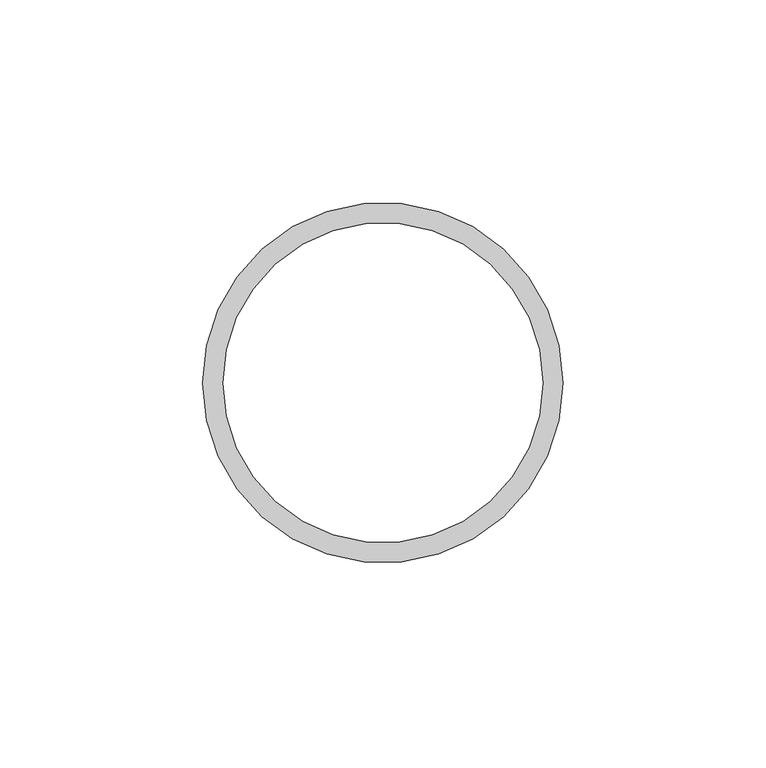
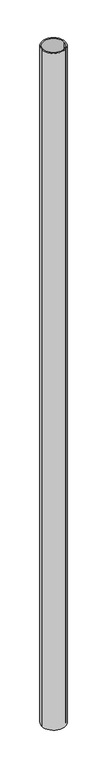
"""IFC4 building model written with IfcOpenShell, lengths in millimetres: column geometry, NLRS_28_SC_TLB_kolom buis_generiek_ISR : ø88.9x5 ."""

from ifc_helpers import new_model, si_unit, point, frame, origin, origin_2d, place, context, project, spatial, circle_curve, trimmed, segment, composite_curve, outline, extrude, source, transform, mapped, element, save


def column_8db69a7e(model_context):
    return source(origin(), model_context, "Body", "SweptSolid", [
        extrude(outline(composite_curve([segment(trimmed(circle_curve(origin_2d(), 44.45), [point((44.45, 0.0))], [point((-44.45, 0.0))], False, "CARTESIAN"), True, "CONTINUOUS"), segment(trimmed(circle_curve(origin_2d(), 44.45), [point((-44.45, 0.0))], [point((44.45, 0.0))], False, "CARTESIAN"), True, "CONTINUOUS")], self_intersect=False), holes=[composite_curve([segment(trimmed(circle_curve(origin_2d(), 39.45), [point((39.45, 0.0))], [point((-39.45, 0.0))], True, "CARTESIAN"), True, "CONTINUOUS"), segment(trimmed(circle_curve(origin_2d(), 39.45), [point((-39.45, 0.0))], [point((39.45, 0.0))], True, "CARTESIAN"), True, "CONTINUOUS")], self_intersect=False)]), frame((0.0, 0.0, 3500.0), z_axis=(0.0, 0.0, 1.0), x_axis=(1.0, 0.0, 0.0)), (0.0, 0.0, 1.0), 2700.0),
    ])


if __name__ == "__main__":
    model = new_model("IFC4")
    model_context = context("Model", 3, world=origin())
    ifc_project = project(units=[si_unit("LENGTHUNIT", "METRE", prefix="MILLI")], contexts=[model_context])
    site = spatial("IfcSite", under=ifc_project)
    building = spatial("IfcBuilding", under=site)
    placement = place(None, origin())
    column_shape = column_8db69a7e(model_context)
    element("IfcColumn", 1, ObjectType="NLRS_28_SC_TLB_kolom buis_generiek_ISR : ø88.9x5 ", at=placement, inside=building, context=model_context, shape_type="MappedRepresentation", body=[
        mapped(column_shape, transform((0.0, 0.0, 0.0), x_axis=(1.0, 0.0, 0.0), y_axis=(0.0, 1.0, 0.0), z_axis=(0.0, 0.0, 1.0))),
    ])
    save(model, "model.ifc")
